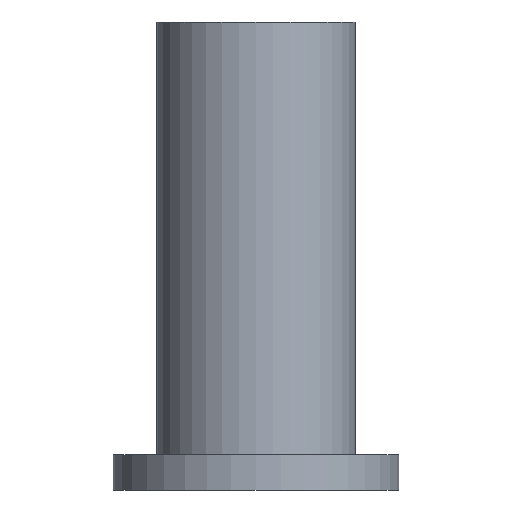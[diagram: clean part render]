
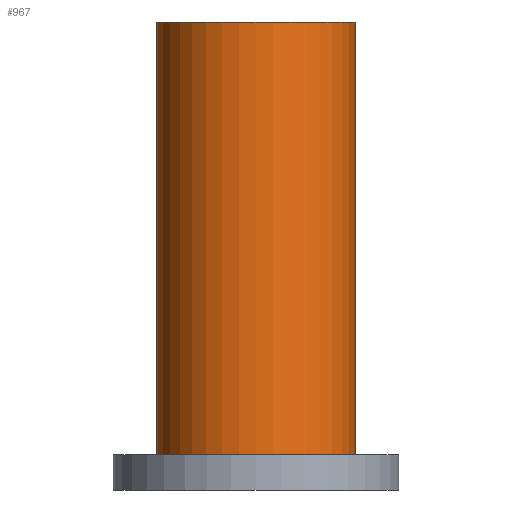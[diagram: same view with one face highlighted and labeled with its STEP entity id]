
A CAD part, front view. The second image highlights one B-rep face of the part: STEP entity #967.
In plain terms, the highlighted cylindrical face has radius 67.5 mm (diameter 135 mm), a partial arc.
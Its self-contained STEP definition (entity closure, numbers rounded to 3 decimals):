
#129=CARTESIAN_POINT('',(0.,0.,24.));
#130=DIRECTION('',(0.,0.,-1.));
#131=DIRECTION('',(1.,0.,0.));
#132=AXIS2_PLACEMENT_3D('',#129,#130,#131);
#297=DIRECTION('',(0.,0.,-1.));
#298=VECTOR('',#297,294.);
#299=CARTESIAN_POINT('',(-67.5,0.,318.));
#300=LINE('',#299,#298);
#301=DIRECTION('',(0.,0.,-1.));
#302=VECTOR('',#301,294.);
#303=CARTESIAN_POINT('',(67.5,0.,318.));
#304=LINE('',#303,#302);
#310=CARTESIAN_POINT('',(0.,0.,318.));
#311=DIRECTION('',(0.,0.,1.));
#312=DIRECTION('',(-1.,0.,0.));
#313=AXIS2_PLACEMENT_3D('',#310,#311,#312);
#589=CARTESIAN_POINT('',(67.5,0.,318.));
#590=CARTESIAN_POINT('',(67.5,0.,24.));
#591=VERTEX_POINT('',#589);
#592=VERTEX_POINT('',#590);
#593=CARTESIAN_POINT('',(-67.5,0.,318.));
#594=CARTESIAN_POINT('',(-67.5,0.,24.));
#595=VERTEX_POINT('',#593);
#596=VERTEX_POINT('',#594);
#953=CARTESIAN_POINT('',(0.,0.,318.));
#954=DIRECTION('',(0.,0.,-1.));
#955=DIRECTION('',(-1.,0.,0.));
#956=AXIS2_PLACEMENT_3D('',#953,#954,#955);
#957=CYLINDRICAL_SURFACE('',#956,67.5);
#958=ORIENTED_EDGE('',*,*,#694,.T.);
#960=ORIENTED_EDGE('',*,*,#959,.F.);
#962=ORIENTED_EDGE('',*,*,#961,.T.);
#964=ORIENTED_EDGE('',*,*,#963,.T.);
#965=EDGE_LOOP('',(#958,#960,#962,#964));
#966=FACE_OUTER_BOUND('',#965,.F.);
#967=ADVANCED_FACE('',(#966),#957,.T.);
#133=CIRCLE('',#132,67.5);
#314=CIRCLE('',#313,67.5);
#694=EDGE_CURVE('',#592,#596,#133,.T.);
#959=EDGE_CURVE('',#595,#596,#300,.T.);
#961=EDGE_CURVE('',#595,#591,#314,.T.);
#963=EDGE_CURVE('',#591,#592,#304,.T.);
